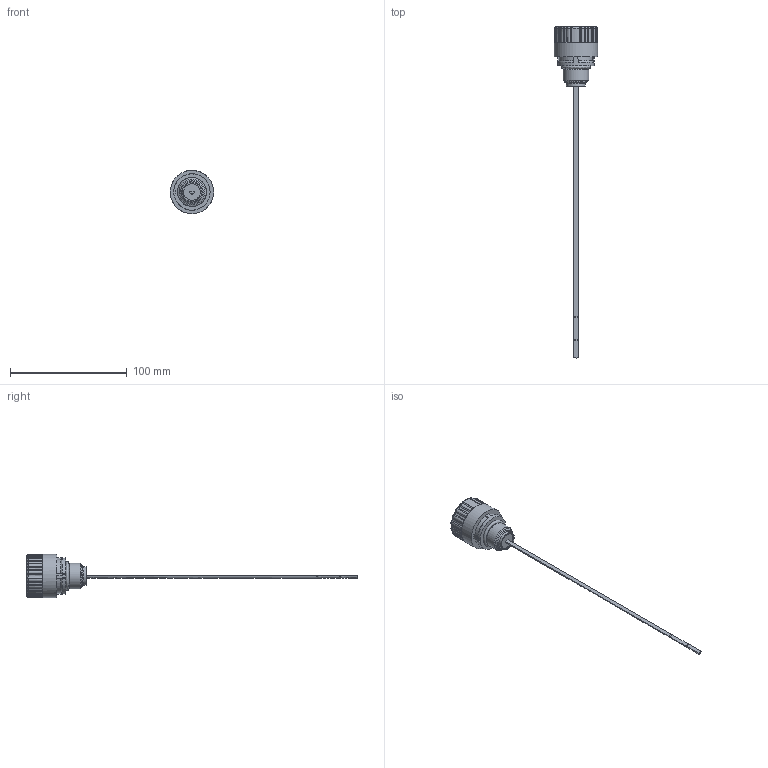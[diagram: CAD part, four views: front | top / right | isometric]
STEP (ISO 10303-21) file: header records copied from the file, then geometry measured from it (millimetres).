
FILE_DESCRIPTION((''),'2;1');
FILE_NAME('U:\Users\r.stiegele\L1.stp','2014-03-11T09:30:33',('User'), ('SDRC'),'I-DEAS Master Series 9','UNIX','Yes');
FILE_SCHEMA(('AUTOMOTIVE_DESIGN { 1 0 10303 214 1 1 1 1 }'));
Length unit declared in the file: millimetre
Products named in the file (1): L1.0406-33(12151900)
Bounding box: 36.95 x 283.9 x 37 mm (x, y, z)
Volume: 39908 mm3; surface area: 9837 mm2
Topology: 1 solids, 1 shells, 447 faces, 1196 edges, 765 vertices
Faces by surface type: bspline 447
Entity records: 13901 total; most frequent: CARTESIAN_POINT 6865, ORIENTED_EDGE 2382, EDGE_CURVE 1191, VERTEX_POINT 765, B_SPLINE_CURVE_WITH_KNOTS 579, EDGE_LOOP 466, FACE_OUTER_BOUND 447, ADVANCED_FACE 447
